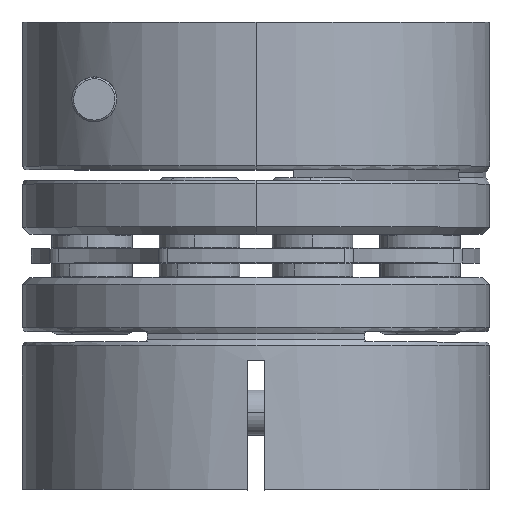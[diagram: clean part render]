
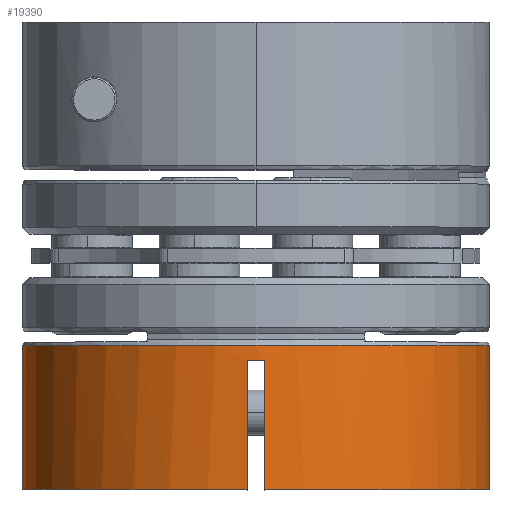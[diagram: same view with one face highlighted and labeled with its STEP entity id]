
A CAD part, top view. The second image highlights one B-rep face of the part: STEP entity #19390.
In plain terms, the highlighted cylindrical face has radius 13 mm (diameter 26 mm), a partial arc.
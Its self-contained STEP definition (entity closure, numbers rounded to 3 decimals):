
#474 = VERTEX_POINT ( 'NONE', #15891 ) ;
#1455 = FACE_OUTER_BOUND ( 'NONE', #18575, .T. ) ;
#1543 = EDGE_CURVE ( 'NONE', #474, #8113, #22349, .T. ) ;
#2343 = LINE ( 'NONE', #10918, #19072 ) ;
#3605 = CARTESIAN_POINT ( 'NONE',  ( 1.755, -56.94, 0. ) ) ;
#3821 = CARTESIAN_POINT ( 'NONE',  ( 14.755, -18.289, 0. ) ) ;
#4522 = DIRECTION ( 'NONE',  ( 0., 1., 0. ) ) ;
#4620 = VECTOR ( 'NONE', #4522, 1000. ) ;
#4649 = EDGE_CURVE ( 'NONE', #7781, #7837, #5685, .T. ) ;
#4691 = ORIENTED_EDGE ( 'NONE', *, *, #9518, .F. ) ;
#4891 = LINE ( 'NONE', #17239, #4620 ) ;
#5312 = CIRCLE ( 'NONE', #6321, 13. ) ;
#5685 = CIRCLE ( 'NONE', #19402, 13. ) ;
#6321 = AXIS2_PLACEMENT_3D ( 'NONE', #18003, #12561, #7255 ) ;
#6502 = CARTESIAN_POINT ( 'NONE',  ( 1.255, -26.289, 12.99 ) ) ;
#7255 = DIRECTION ( 'NONE',  ( 1., 0., 0. ) ) ;
#7781 = VERTEX_POINT ( 'NONE', #18166 ) ;
#7837 = VERTEX_POINT ( 'NONE', #3821 ) ;
#8113 = VERTEX_POINT ( 'NONE', #10139 ) ;
#8274 = VECTOR ( 'NONE', #13884, 1000. ) ;
#8577 = DIRECTION ( 'NONE',  ( -1., 0., 0. ) ) ;
#8812 = ORIENTED_EDGE ( 'NONE', *, *, #18367, .T. ) ;
#8968 = AXIS2_PLACEMENT_3D ( 'NONE', #3605, #21449, #12364 ) ;
#9041 = EDGE_CURVE ( 'NONE', #10207, #7781, #12465, .T. ) ;
#9169 = DIRECTION ( 'NONE',  ( 0., -1., 0. ) ) ;
#9403 = CARTESIAN_POINT ( 'NONE',  ( 1.589, -19.16, 13.003 ) ) ;
#9518 = EDGE_CURVE ( 'NONE', #13421, #14411, #12168, .T. ) ;
#9529 = ORIENTED_EDGE ( 'NONE', *, *, #12194, .T. ) ;
#9837 = ORIENTED_EDGE ( 'NONE', *, *, #1543, .F. ) ;
#10139 = CARTESIAN_POINT ( 'NONE',  ( 2.255, -26.289, 12.99 ) ) ;
#10207 = VERTEX_POINT ( 'NONE', #10727 ) ;
#10699 = ORIENTED_EDGE ( 'NONE', *, *, #9041, .F. ) ;
#10727 = CARTESIAN_POINT ( 'NONE',  ( -11.245, -26.289, 0. ) ) ;
#10918 = CARTESIAN_POINT ( 'NONE',  ( 2.255, -14.489, 12.99 ) ) ;
#11077 = DIRECTION ( 'NONE',  ( 0., -1., 0. ) ) ;
#11853 = ORIENTED_EDGE ( 'NONE', *, *, #13607, .T. ) ;
#12168 = LINE ( 'NONE', #13725, #8274 ) ;
#12194 = EDGE_CURVE ( 'NONE', #474, #7837, #4891, .T. ) ;
#12364 = DIRECTION ( 'NONE',  ( -1., 0., 0. ) ) ;
#12465 = LINE ( 'NONE', #12475, #19145 ) ;
#12475 = CARTESIAN_POINT ( 'NONE',  ( -11.245, -56.94, 0. ) ) ;
#12561 = DIRECTION ( 'NONE',  ( 0., -1., 0. ) ) ;
#13421 = VERTEX_POINT ( 'NONE', #17578 ) ;
#13607 = EDGE_CURVE ( 'NONE', #13421, #20309, #18071, .T. ) ;
#13725 = CARTESIAN_POINT ( 'NONE',  ( 1.255, -14.489, 12.99 ) ) ;
#13884 = DIRECTION ( 'NONE',  ( 0., -1., 0. ) ) ;
#14411 = VERTEX_POINT ( 'NONE', #6502 ) ;
#14603 = CARTESIAN_POINT ( 'NONE',  ( 1.755, -26.289, 0. ) ) ;
#15127 = EDGE_CURVE ( 'NONE', #14411, #10207, #5312, .T. ) ;
#15247 = ORIENTED_EDGE ( 'NONE', *, *, #4649, .F. ) ;
#15675 = CYLINDRICAL_SURFACE ( 'NONE', #8968, 13. ) ;
#15891 = CARTESIAN_POINT ( 'NONE',  ( 14.755, -26.289, 0. ) ) ;
#16341 = CARTESIAN_POINT ( 'NONE',  ( 2.255, -19.154, 12.99 ) ) ;
#16385 = AXIS2_PLACEMENT_3D ( 'NONE', #14603, #9169, #21441 ) ;
#17239 = CARTESIAN_POINT ( 'NONE',  ( 14.755, -56.94, 0. ) ) ;
#17357 = DIRECTION ( 'NONE',  ( 0., 1., 0. ) ) ;
#17578 = CARTESIAN_POINT ( 'NONE',  ( 1.255, -19.154, 12.99 ) ) ;
#18003 = CARTESIAN_POINT ( 'NONE',  ( 1.755, -26.289, 0. ) ) ;
#18071 = B_SPLINE_CURVE_WITH_KNOTS ( 'NONE', 3,
 ( #19814, #9403, #21676, #16341 ),
 .UNSPECIFIED., .F., .F.,
 ( 4, 4 ),
 ( 0., 0.001 ),
 .UNSPECIFIED. ) ;
#18166 = CARTESIAN_POINT ( 'NONE',  ( -11.245, -18.289, 0. ) ) ;
#18367 = EDGE_CURVE ( 'NONE', #20309, #8113, #2343, .T. ) ;
#18575 = EDGE_LOOP ( 'NONE', ( #9837, #9529, #15247, #10699, #19970, #4691, #11853, #8812 ) ) ;
#19072 = VECTOR ( 'NONE', #11077, 1000. ) ;
#19145 = VECTOR ( 'NONE', #19617, 1000. ) ;
#19234 = CARTESIAN_POINT ( 'NONE',  ( 1.755, -18.289, 0. ) ) ;
#19390 = ADVANCED_FACE ( 'NONE', ( #1455 ), #15675, .T. ) ;
#19402 = AXIS2_PLACEMENT_3D ( 'NONE', #19234, #17357, #8577 ) ;
#19617 = DIRECTION ( 'NONE',  ( 0., 1., 0. ) ) ;
#19814 = CARTESIAN_POINT ( 'NONE',  ( 1.255, -19.154, 12.99 ) ) ;
#19970 = ORIENTED_EDGE ( 'NONE', *, *, #15127, .F. ) ;
#20309 = VERTEX_POINT ( 'NONE', #22519 ) ;
#21441 = DIRECTION ( 'NONE',  ( 1., 0., 0. ) ) ;
#21449 = DIRECTION ( 'NONE',  ( 0., 1., 0. ) ) ;
#21676 = CARTESIAN_POINT ( 'NONE',  ( 1.922, -19.16, 13.003 ) ) ;
#22349 = CIRCLE ( 'NONE', #16385, 13. ) ;
#22519 = CARTESIAN_POINT ( 'NONE',  ( 2.255, -19.154, 12.99 ) ) ;
